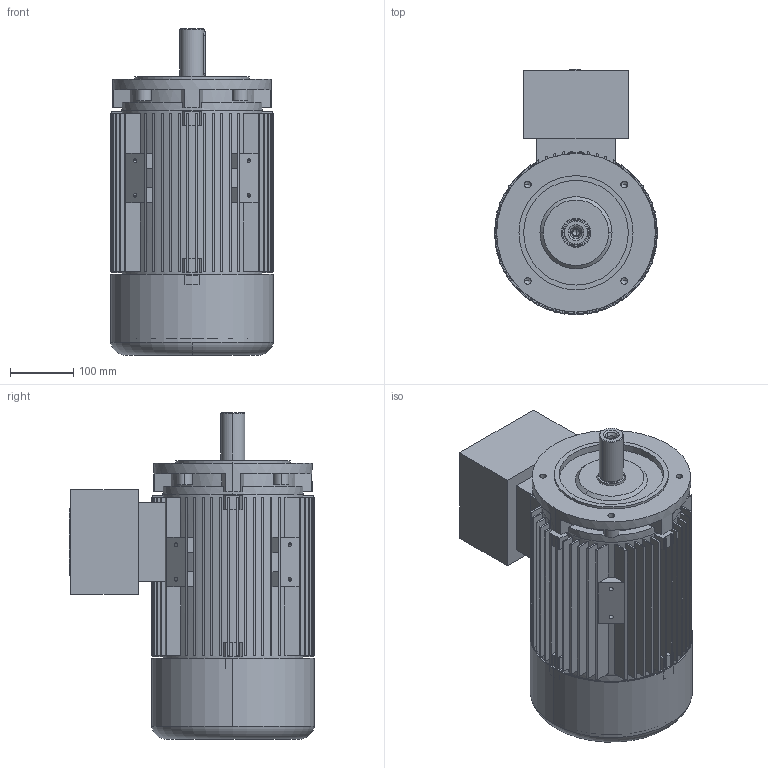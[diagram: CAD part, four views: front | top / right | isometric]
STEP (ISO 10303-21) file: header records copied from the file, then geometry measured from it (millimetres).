
FILE_DESCRIPTION (( 'STEP AP214' ), '1' );
FILE_NAME ('7AT 132S&M B14_small Exd STANDK.STEP', '2018-05-10T14:19:55', ( '' ), ( '' ), 'SwSTEP 2.0', 'SolidWorks 2017', '' );
FILE_SCHEMA (( 'AUTOMOTIVE_DESIGN' ));
Length unit declared in the file: millimetre
Products named in the file (1): 7AT 132S&M B14_small Exd STANDK
Bounding box: 257.79 x 386.89 x 515 mm (x, y, z)
Volume: 11488769.3 mm3; surface area: 2441233.3 mm2
Topology: 8 solids, 8 shells, 1119 faces, 3068 edges, 2015 vertices
Faces by surface type: plane 783, cylinder 273, cone 50, bspline 9, torus 4
Entity records: 36545 total; most frequent: CARTESIAN_POINT 6378, DIRECTION 6204, ORIENTED_EDGE 6068, EDGE_CURVE 3034, AXIS2_PLACEMENT_3D 2089, LINE 2026, VECTOR 2026, VERTEX_POINT 2015
